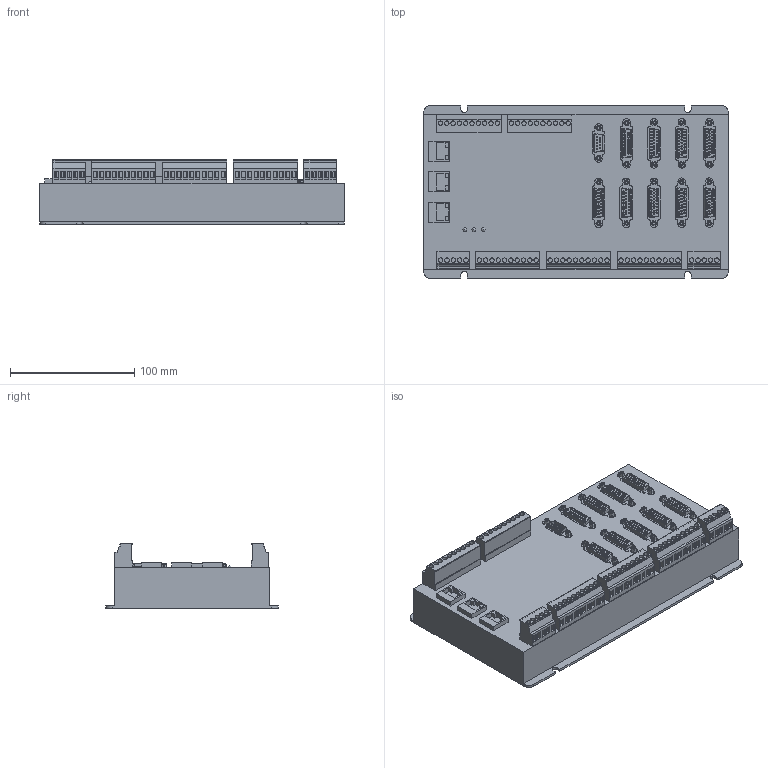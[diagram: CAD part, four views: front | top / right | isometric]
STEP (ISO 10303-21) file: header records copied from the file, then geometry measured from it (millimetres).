
FILE_DESCRIPTION(/* description */ (''),/* implementation_level */ '2;1');
FILE_NAME(/* name */ 'ECI2820模型3D.prt.step',/* time_stamp */ '2020-05-31T22:02:31+08:00',/* author */ (''),/* organization */ (''),/* preprocessor_version */ 'ST-DEVELOPER v16',/* originating_system */ 'SIEMENS PLM Software NX 10.0',/* authorisation */ '');
FILE_SCHEMA (('AUTOMOTIVE_DESIGN { 1 0 10303 214 3 1 1 1 }'));
Products named in the file (1): ECI2820模型3D
Bounding box: 245 x 138.5 x 52.17 mm (x, y, z)
Volume: 1086133.5 mm3; surface area: 136525.6 mm2
Topology: 23 solids, 23 shells, 2293 faces, 5017 edges, 3053 vertices
Faces by surface type: plane 1156, cylinder 665, torus 261, sphere 123, extrusion 51, bspline 31, cone 6
Full cylindrical faces by diameter (mm): 1 x217, 1.42 x15, 2.1 x20, 3.6 x50
Entity records: 63046 total; most frequent: CARTESIAN_POINT 12474, DIRECTION 10294, ORIENTED_EDGE 8542, EDGE_CURVE 4271, AXIS2_PLACEMENT_3D 3874, EDGE_LOOP 3259, VERTEX_POINT 2987, VECTOR 2546
